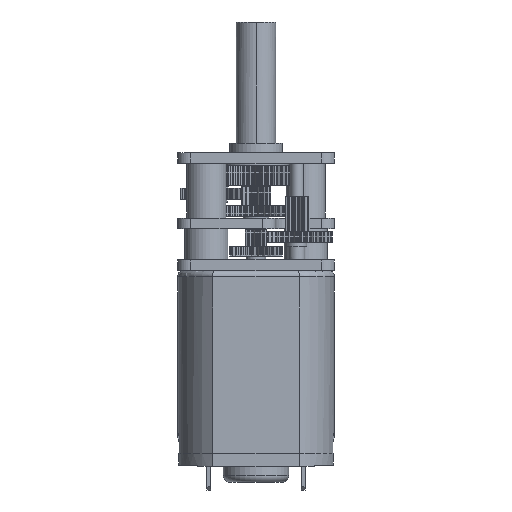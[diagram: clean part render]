
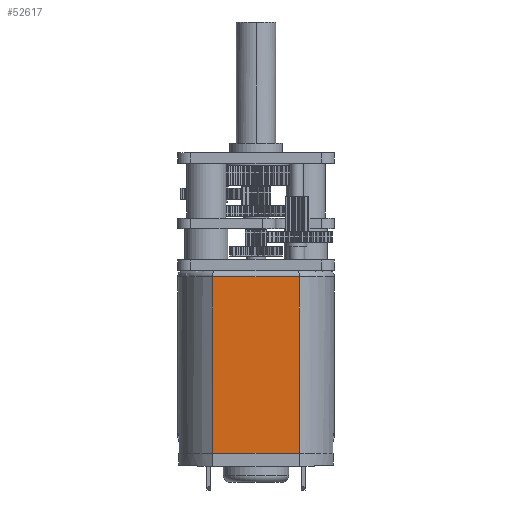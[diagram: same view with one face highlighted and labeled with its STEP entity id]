
A CAD part, front view. The second image highlights one B-rep face of the part: STEP entity #52617.
In plain terms, the highlighted planar face has unit normal (0, -1, 0).
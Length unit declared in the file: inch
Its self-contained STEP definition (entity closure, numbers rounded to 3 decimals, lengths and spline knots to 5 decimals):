
#3805 = VERTEX_POINT ( 'NONE', #97555 ) ;
#5682 = ORIENTED_EDGE ( 'NONE', *, *, #100667, .F. ) ;
#12027 = VECTOR ( 'NONE', #122878, 39.37008 ) ;
#14706 = CARTESIAN_POINT ( 'NONE',  ( 0., -0.19685, -0.01969 ) ) ;
#18024 = FACE_OUTER_BOUND ( 'NONE', #100905, .T. ) ;
#30229 = PLANE ( 'NONE',  #110494 ) ;
#30307 = EDGE_CURVE ( 'NONE', #3805, #98020, #116710, .T. ) ;
#33513 = VECTOR ( 'NONE', #35760, 39.37008 ) ;
#35760 = DIRECTION ( 'NONE',  ( -1., 0., 0. ) ) ;
#35822 = LINE ( 'NONE', #87621, #131192 ) ;
#37467 = CARTESIAN_POINT ( 'NONE',  ( 0.13057, -0.19683, -0.55118 ) ) ;
#39495 = CARTESIAN_POINT ( 'NONE',  ( 0.13058, -0.19685, -0.55118 ) ) ;
#43861 = EDGE_CURVE ( 'NONE', #119619, #130629, #92539, .T. ) ;
#50318 = ORIENTED_EDGE ( 'NONE', *, *, #43861, .T. ) ;
#52617 = ADVANCED_FACE ( 'NONE', ( #18024 ), #30229, .T. ) ;
#56596 = CARTESIAN_POINT ( 'NONE',  ( 0.13057, -0.19683, -0.55118 ) ) ;
#56977 = ORIENTED_EDGE ( 'NONE', *, *, #121809, .T. ) ;
#58624 = CARTESIAN_POINT ( 'NONE',  ( 0.13058, -0.19685, -0.01969 ) ) ;
#59317 = CARTESIAN_POINT ( 'NONE',  ( -0.04352, -0.19685, -0.55118 ) ) ;
#61069 = CARTESIAN_POINT ( 'NONE',  ( -0.13058, -0.19685, -0.01969 ) ) ;
#78016 = ORIENTED_EDGE ( 'NONE', *, *, #30307, .T. ) ;
#78402 = CARTESIAN_POINT ( 'NONE',  ( -0.13057, -0.19683, -0.55118 ) ) ;
#87621 = CARTESIAN_POINT ( 'NONE',  ( -0.13058, -0.19685, -0.55118 ) ) ;
#92286 = DIRECTION ( 'NONE',  ( -1., 0., 0. ) ) ;
#92539 = LINE ( 'NONE', #14706, #33513 ) ;
#94996 = DIRECTION ( 'NONE',  ( 0., -1., 0. ) ) ;
#97555 = CARTESIAN_POINT ( 'NONE',  ( -0.13057, -0.19683, -0.55118 ) ) ;
#98020 = VERTEX_POINT ( 'NONE', #37467 ) ;
#100667 = EDGE_CURVE ( 'NONE', #3805, #130629, #35822, .T. ) ;
#100905 = EDGE_LOOP ( 'NONE', ( #56977, #50318, #5682, #78016 ) ) ;
#110494 = AXIS2_PLACEMENT_3D ( 'NONE', #134109, #94996, #92286 ) ;
#111231 = CARTESIAN_POINT ( 'NONE',  ( 0.04352, -0.19685, -0.55118 ) ) ;
#116710 = B_SPLINE_CURVE_WITH_KNOTS ( 'NONE', 3,
 ( #78402, #59317, #111231, #56596 ),
 .UNSPECIFIED., .F., .F.,
 ( 4, 4 ),
 ( 0., 1. ),
 .UNSPECIFIED. ) ;
#119619 = VERTEX_POINT ( 'NONE', #58624 ) ;
#121809 = EDGE_CURVE ( 'NONE', #98020, #119619, #134516, .T. ) ;
#122878 = DIRECTION ( 'NONE',  ( 0., 0., 1. ) ) ;
#128750 = DIRECTION ( 'NONE',  ( 0., 0., 1. ) ) ;
#130629 = VERTEX_POINT ( 'NONE', #61069 ) ;
#131192 = VECTOR ( 'NONE', #128750, 39.37008 ) ;
#134109 = CARTESIAN_POINT ( 'NONE',  ( 0., -0.19685, -0.55118 ) ) ;
#134516 = LINE ( 'NONE', #39495, #12027 ) ;
